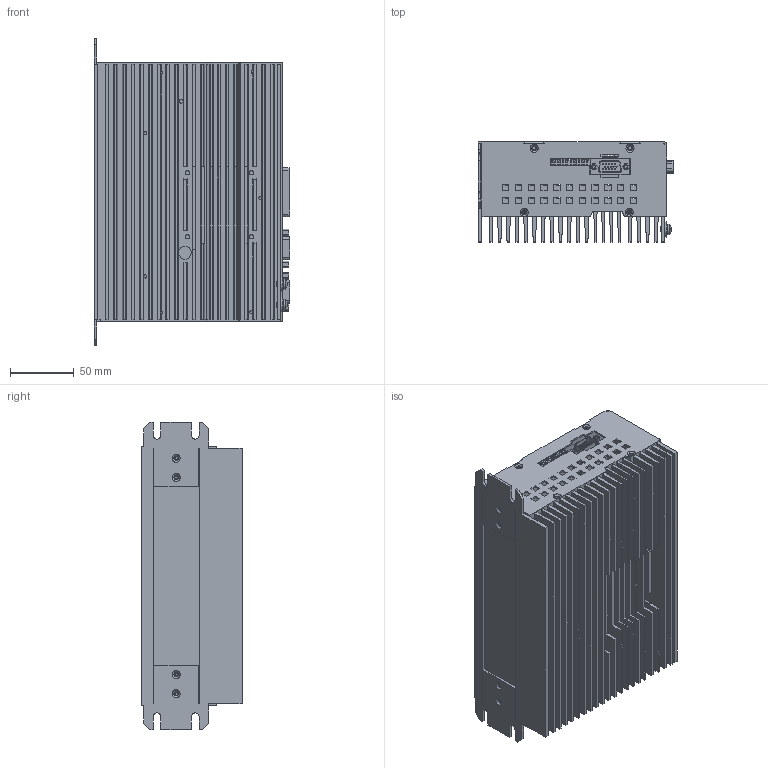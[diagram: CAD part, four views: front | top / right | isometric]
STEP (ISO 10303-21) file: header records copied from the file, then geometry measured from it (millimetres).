
FILE_DESCRIPTION((''),'2;1');
FILE_NAME('DA212_SW0001','2020-06-20T',('DELL'),(''),'PRO/ENGINEER BY PARAMETRIC TECHNOLOGY CORPORATION, 2010280','PRO/ENGINEER BY PARAMETRIC TECHNOLOGY CORPORATION, 2010280','');
FILE_SCHEMA(('AUTOMOTIVE_DESIGN { 1 2 10303 214 0 1 1 1 }'));
Products named in the file (1): DA212_SW0001
Bounding box: 153 x 78.2 x 240 mm (x, y, z)
Surface area: 388207.6 mm2 (no closed solid volume)
Topology: 0 solids, 14 shells, 2390 faces, 5847 edges, 3733 vertices
Faces by surface type: plane 1507, cylinder 610, cone 161, bspline 90, torus 20, sphere 2
Entity records: 86712 total; most frequent: CARTESIAN_POINT 18671, DIRECTION 11656, ORIENTED_EDGE 11626, EDGE_CURVE 5813, VECTOR 4080, LINE 4080, AXIS2_PLACEMENT_3D 3788, VERTEX_POINT 3733
